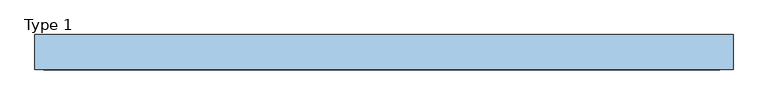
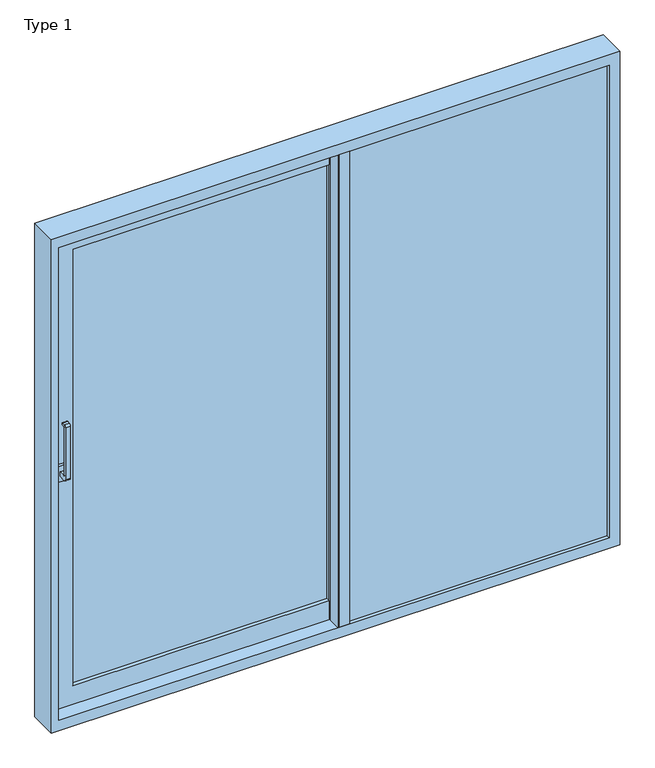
"""IFC4 building model written with IfcOpenShell, lengths in millimetres: window geometry, ETEM_E50_Single_Lift_Sliding_HT_NI : Type 1."""

from ifc_helpers import new_model, si_unit, point, frame, frame_2d, origin, place, context, project, spatial, polyline, circle_curve, trimmed, segment, composite_curve, outline, extrude, faceted_brep, source, transform, mapped, element, save


def type_1_19e61f69(model_context):
    return source(origin(), model_context, "Body", "SolidModel", [
        extrude(outline(composite_curve([segment(polyline([(36.4, 1090.0), (4.8263152, 1090.0)]), True, "CONTINUOUS"), segment(trimmed(circle_curve(frame_2d((4.8263152, 1098.4263152)), 8.4263152), [point((4.8263152, 1090.0))], [point((-3.6, 1098.4263152))], False, "CARTESIAN"), True, "CONTINUOUS"), segment(polyline([(-3.6, 1098.4263152), (-3.6, 1331.5736848)]), True, "CONTINUOUS"), segment(trimmed(circle_curve(frame_2d((4.8263152, 1331.5736848)), 8.4263152), [point((-3.6, 1331.5736848))], [point((4.8263152, 1340.0))], False, "CARTESIAN"), True, "CONTINUOUS"), segment(polyline([(4.8263152, 1340.0), (16.4, 1340.0)]), True, "CONTINUOUS"), segment(trimmed(circle_curve(frame_2d((16.4, 1335.0)), 5.0), [point((16.4, 1340.0))], [point((16.4, 1330.0))], False, "CARTESIAN"), True, "CONTINUOUS"), segment(polyline([(16.4, 1330.0), (9.9355339, 1330.0)]), True, "CONTINUOUS"), segment(trimmed(circle_curve(frame_2d((9.9355339, 1326.4644661)), 3.5355339), [point((9.9355339, 1330.0))], [point((6.4, 1326.4644661))], True, "CARTESIAN"), True, "CONTINUOUS"), segment(polyline([(6.4, 1326.4644661), (6.4, 1113.5355339)]), True, "CONTINUOUS"), segment(trimmed(circle_curve(frame_2d((9.9355339, 1113.5355339)), 3.5355339), [point((6.4, 1113.5355339))], [point((9.9355339, 1110.0))], True, "CARTESIAN"), True, "CONTINUOUS"), segment(polyline([(9.9355339, 1110.0), (36.4, 1110.0), (36.4, 1090.0)]), True, "CONTINUOUS")], self_intersect=False)), frame((-1133.6259607, 0.0, 0.0), z_axis=(1.0, 0.0, 0.0), x_axis=(0.0, 1.0, 0.0)), (0.0, 0.0, 1.0), 20.0),
        extrude(outline(polyline([(-1108.6259607, 36.4), (-1138.6259607, 36.4), (-1138.6259607, 49.4), (-1108.6259607, 49.4), (-1108.6259607, 36.4)])), frame((0.0, 0.0, 1065.0), z_axis=(0.0, 0.0, 1.0), x_axis=(1.0, 0.0, 0.0)), (0.0, 0.0, 1.0), 70.0),
        faceted_brep([(9.5, 49.4, 127.5), (9.5, 49.4, 36.0), (9.5, 54.1, 36.0), (9.5, 54.1, 67.1), (9.5, 94.7, 67.1), (9.5, 94.7, 36.0), (9.5, 99.4, 36.0), (9.5, 99.4, 127.5), (9.5, 49.4, 2072.5), (9.5, 99.4, 2072.5), (9.5, 99.4, 2164.0), (9.5, 94.7, 2164.0), (9.5, 94.7, 2132.9), (9.5, 54.1, 2132.9), (9.5, 54.1, 2164.0), (9.5, 49.4, 2164.0), (-1072.5259607, 49.4, 127.5), (-1072.5259607, 49.4, 2072.5), (-1164.0259607, 49.4, 2164.0), (-1164.0259607, 49.4, 36.0), (-1164.0259607, 54.1, 36.0), (-1164.0259607, 54.1, 2164.0), (-1132.9259607, 54.1, 2132.9), (-1132.9259607, 54.1, 67.1), (-1132.9259607, 94.7, 67.1), (-1132.9259607, 94.7, 2132.9), (-1164.0259607, 94.7, 2164.0), (-1164.0259607, 94.7, 36.0), (-1164.0259607, 99.4, 36.0), (-1164.0259607, 99.4, 2164.0), (-1072.5259607, 99.4, 2072.5), (-1072.5259607, 99.4, 127.5)], [[[0, 1, 2, 3, 4, 5, 6, 7]], [[8, 9, 10, 11, 12, 13, 14, 15]], [[1, 0, 16, 17, 8, 15, 18, 19]], [[2, 1, 19, 20]], [[3, 2, 20, 21, 14, 13, 22, 23]], [[4, 3, 23, 24]], [[5, 4, 24, 25, 12, 11, 26, 27]], [[6, 5, 27, 28]], [[7, 6, 28, 29, 10, 9, 30, 31]], [[0, 7, 31, 16]], [[16, 31, 30, 17]], [[20, 19, 18, 21]], [[24, 23, 22, 25]], [[28, 27, 26, 29]], [[21, 18, 15, 14]], [[25, 22, 13, 12]], [[29, 26, 11, 10]], [[17, 30, 9, 8]]]),
        extrude(outline(polyline([(58.5, 43.4684907), (54.0, 43.4684907), (54.0, 99.4), (58.5, 99.4), (58.5, 43.4684907)])), frame((0.0, 0.0, 36.0), z_axis=(0.0, 0.0, 1.0), x_axis=(1.0, 0.0, 0.0)), (0.0, 0.0, 1.0), 2128.0),
        extrude(outline(polyline([(9.5, 40.3315093), (14.0, 40.3315093), (14.0, -15.6), (9.5, -15.6), (9.5, 40.3315093)])), frame((0.0, 0.0, 46.0), z_axis=(0.0, 0.0, 1.0), x_axis=(1.0, 0.0, 0.0)), (0.0, 0.0, 1.0), 2108.0),
        extrude(outline(polyline([(-1072.5259607, 91.3998896), (9.5, 91.3998896), (9.5, 86.3998789), (-1072.5259607, 86.3998789), (-1072.5259607, 91.3998896)])), frame((0.0, 0.0, 127.5), z_axis=(0.0, 0.0, 1.0), x_axis=(1.0, 0.0, 0.0)), (0.0, 0.0, 1.0), 1945.0),
        extrude(outline(polyline([(58.5, 26.376411), (1154.0, 26.376411), (1154.0, 21.376411), (58.5, 21.376411), (58.5, 26.376411)])), frame((0.0, 0.0, 46.0), z_axis=(0.0, 0.0, 1.0), x_axis=(1.0, 0.0, 0.0)), (0.0, 0.0, 1.0), 2108.0),
        extrude(outline(polyline([(14.0, -15.6), (14.0, 34.4), (58.5, 34.4), (58.5, -15.6), (14.0, -15.6)])), frame((0.0, 0.0, 46.0), z_axis=(0.0, 0.0, 1.0), x_axis=(1.0, 0.0, 0.0)), (0.0, 0.0, 1.0), 2108.0),
        extrude(outline(polyline([(-1072.5259607, 70.4000107), (9.5, 70.4000107), (9.5, 65.4), (-1072.5259607, 65.4), (-1072.5259607, 70.4000107)])), frame((0.0, 0.0, 127.5), z_axis=(0.0, 0.0, 1.0), x_axis=(1.0, 0.0, 0.0)), (0.0, 0.0, 1.0), 1945.0),
        extrude(outline(polyline([(58.5, 5.3765321), (1154.0, 5.3765321), (1154.0, 0.3765321), (58.5, 0.3765321), (58.5, 5.3765321)])), frame((0.0, 0.0, 46.0), z_axis=(0.0, 0.0, 1.0), x_axis=(1.0, 0.0, 0.0)), (0.0, 0.0, 1.0), 2108.0),
        extrude(outline(polyline([(54.0, 49.4), (9.5, 49.4), (9.5, 99.4), (54.0, 99.4), (54.0, 49.4)])), frame((0.0, 0.0, 36.0), z_axis=(0.0, 0.0, 1.0), x_axis=(1.0, 0.0, 0.0)), (0.0, 0.0, 1.0), 2128.0),
        faceted_brep([(14.0, 45.4, 35.8), (14.0, 45.4, 46.0), (14.0, 34.4, 46.0), (14.0, 34.4, 35.8), (14.0, 45.4, 2164.2), (14.0, 34.4, 2164.2), (14.0, 34.4, 2154.0), (14.0, 45.4, 2154.0), (1200.0, -15.6, 2200.0), (1200.0, -15.6, 0.0), (1200.0, 105.0, 0.0), (1200.0, 105.0, 2200.0), (-1200.0, -15.6, 2200.0), (-1200.0, -15.6, 0.0), (1154.0, -15.6, 2154.0), (1154.0, -15.6, 46.0), (-1169.0569844, -15.6, 46.0), (-1169.0569844, -15.6, 2154.0), (-1200.0, 105.0, 0.0), (-1155.0, 105.0, 0.0), (-1155.0, 103.6, 0.0), (1155.0, 103.6, 0.0), (1155.0, 105.0, 0.0), (-1200.0, 105.0, 2200.0), (1155.0, 105.0, 2155.0), (-1155.0, 105.0, 2155.0), (1181.7, 101.4, 2181.7), (1181.7, 101.4, 16.3), (1181.7, 92.1, 16.3), (1181.7, 92.1, 18.3), (1181.7, 78.9, 18.3), (1181.7, 78.9, 2181.7), (-1155.0, 101.4, 2155.0), (1155.0, 101.4, 2155.0), (1155.0, 101.4, 16.3), (-1181.7, 101.4, 2181.7), (-1181.7, 101.4, 16.3), (-1155.0, 101.4, 16.3), (1155.0, 103.6, 16.3), (-1155.0, 103.6, 16.3), (-1181.7, 92.1, 16.3), (-1181.7, 92.1, 18.3), (-1181.7, 78.9, 18.3), (-1181.7, 78.9, 2181.7), (1163.0, 78.9, 37.0), (1163.0, 78.9, 2163.0), (-1163.0, 78.9, 2163.0), (-1163.0, 78.9, 37.0), (1163.0, 90.4, 2163.0), (1163.0, 90.4, 37.0), (-1163.0, 90.4, 37.0), (-1163.0, 90.4, 2163.0), (1155.0, 90.4, 45.0), (1155.0, 90.4, 2155.0), (-1155.0, 90.4, 2155.0), (-1155.0, 90.4, 45.0), (1155.0, 58.4, 2155.0), (1155.0, 58.4, 45.0), (-1155.0, 58.4, 45.0), (1163.0, 58.4, 37.0), (1163.0, 58.4, 2163.0), (-1163.0, 58.4, 2163.0), (-1163.0, 58.4, 37.0), (-1155.0, 58.4, 2155.0), (1163.0, 69.9, 2163.0), (1163.0, 69.9, 37.0), (-1163.0, 69.9, 37.0), (1181.7, 69.9, 18.3), (1181.7, 69.9, 2181.7), (-1181.7, 69.9, 2181.7), (-1181.7, 69.9, 18.3), (-1163.0, 69.9, 2163.0), (1181.7, 34.4, 2181.7), (1181.7, 34.4, 18.3), (-1181.7, 34.4, 18.3), (-1181.7, 34.4, 2181.7), (1154.0, 34.4, 46.0), (1154.0, 34.4, 2154.0), (-1164.2, 34.4, 2164.2), (-1164.2, 34.4, 35.8), (-1154.0, 45.4, 46.0), (-1154.0, 28.4667744, 46.0), (-1164.2, 45.4, 35.8), (-1164.2, 45.4, 2164.2), (-1154.0, 45.4, 2154.0), (-1154.0, 28.4667744, 2154.0)], [[[0, 1, 2, 3]], [[4, 5, 6, 7]], [[8, 9, 10, 11]], [[9, 8, 12, 13], [14, 15, 16, 17]], [[10, 9, 13, 18, 19, 20, 21, 22]], [[19, 18, 23, 11, 10, 22, 24, 25]], [[26, 27, 28, 29, 30, 31]], [[32, 33, 34, 27, 26, 35, 36, 37]], [[38, 39, 37, 36, 40, 28, 27, 34]], [[41, 29, 28, 40]], [[30, 29, 41, 42]], [[31, 30, 42, 43], [44, 45, 46, 47]], [[48, 45, 44, 49]], [[49, 44, 47, 50]], [[48, 49, 50, 51], [52, 53, 54, 55]], [[56, 53, 52, 57]], [[57, 52, 55, 58]], [[59, 60, 61, 62], [56, 57, 58, 63]], [[64, 60, 59, 65]], [[65, 59, 62, 66]], [[67, 68, 69, 70], [64, 65, 66, 71]], [[72, 68, 67, 73]], [[73, 67, 70, 74]], [[72, 73, 74, 75], [76, 77, 6, 5, 78, 79, 3, 2]], [[14, 77, 76, 15]], [[15, 76, 2, 1, 80, 81, 16]], [[18, 13, 12, 23]], [[19, 25, 32, 37, 39, 20]], [[39, 38, 21, 20]], [[24, 22, 21, 38, 34, 33]], [[42, 41, 40, 36, 35, 43]], [[50, 47, 46, 51]], [[58, 55, 54, 63]], [[66, 62, 61, 71]], [[74, 70, 69, 75]], [[1, 0, 82, 83, 4, 7, 84, 80]], [[85, 81, 80, 84]], [[83, 82, 79, 78]], [[0, 3, 79, 82]], [[8, 11, 23, 12]], [[26, 31, 43, 35]], [[45, 48, 51, 46]], [[53, 56, 63, 54]], [[60, 64, 71, 61]], [[68, 72, 75, 69]], [[77, 14, 17, 85, 84, 7, 6]], [[5, 4, 83, 78]], [[25, 24, 33, 32]], [[85, 17, 16, 81]]]),
    ])


if __name__ == "__main__":
    model = new_model("IFC4")
    model_context = context("Model", 3, world=origin())
    ifc_project = project(units=[si_unit("LENGTHUNIT", "METRE", prefix="MILLI")], contexts=[model_context])
    site = spatial("IfcSite", under=ifc_project)
    building = spatial("IfcBuilding", under=site)
    placement = place(None, origin())
    type_1_shape = type_1_19e61f69(model_context)
    element("IfcWindow", 1, ObjectType="ETEM_E50_Single_Lift_Sliding_HT_NI : Type 1", at=placement, inside=building, context=model_context, shape_type="MappedRepresentation", body=[
        mapped(type_1_shape, transform((0.0, 0.0, 0.0), x_axis=(1.0, 0.0, 0.0), y_axis=(0.0, 1.0, 0.0), z_axis=(0.0, 0.0, 1.0))),
    ])
    save(model, "model.ifc")
